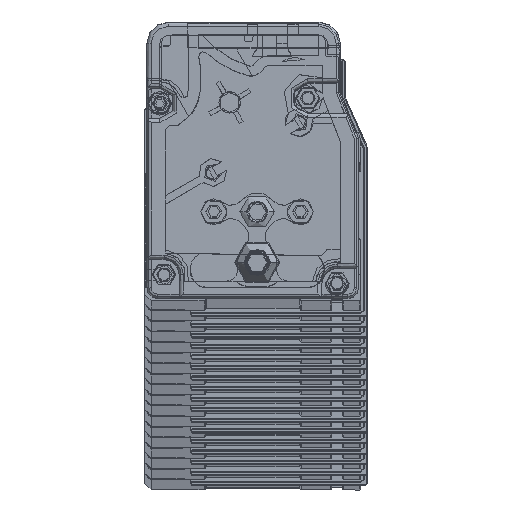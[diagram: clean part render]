
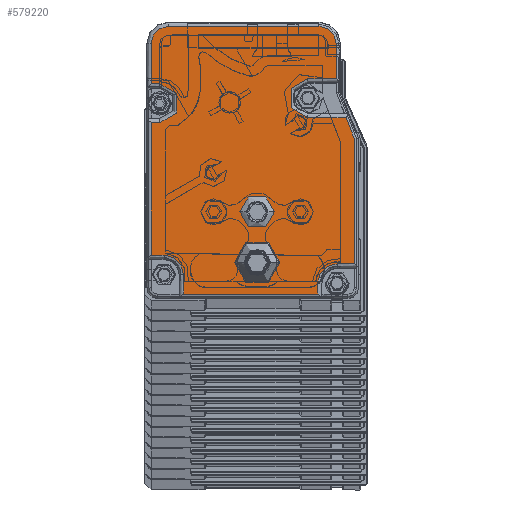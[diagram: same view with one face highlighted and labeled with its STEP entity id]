
A CAD part, top view. The second image highlights one B-rep face of the part: STEP entity #579220.
In plain terms, the highlighted planar face has unit normal (0, 0, 1).
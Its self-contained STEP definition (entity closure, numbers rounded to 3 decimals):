
#505120=CARTESIAN_POINT('',(-20.559,51.727,
2958.89));
#505130=DIRECTION('',(1.,0.,0.));
#505140=VECTOR('',#505130,1.);
#505150=LINE('',#505120,#505140);
#505160=CARTESIAN_POINT('',(-68.559,51.727,
2958.89));
#505170=VERTEX_POINT('',#505160);
#505180=CARTESIAN_POINT('',(-66.559,51.727,
2958.89));
#505190=VERTEX_POINT('',#505180);
#505200=EDGE_CURVE('',#505170,#505190,#505150,.T.);
#505700=CARTESIAN_POINT('',(-20.559,3.124,
2958.89));
#505710=DIRECTION('',(-1.,0.,0.));
#505720=VECTOR('',#505710,1.);
#505730=LINE('',#505700,#505720);
#505740=CARTESIAN_POINT('',(-30.059,3.124,
2958.89));
#505750=VERTEX_POINT('',#505740);
#505760=CARTESIAN_POINT('',(-61.059,3.124,
2958.89));
#505770=VERTEX_POINT('',#505760);
#505780=EDGE_CURVE('',#505750,#505770,#505730,.T.);
#507690=CARTESIAN_POINT('',(-65.559,7.624,
2958.89));
#507700=DIRECTION('',(0.,0.,-1.));
#507710=DIRECTION('',(-1.,0.,0.));
#507720=AXIS2_PLACEMENT_3D('',#507690,#507700,#507710);
#507730=CIRCLE('',#507720,4.5);
#507740=CARTESIAN_POINT('',(-65.559,12.124,
2958.89));
#507750=VERTEX_POINT('',#507740);
#507760=CARTESIAN_POINT('',(-61.059,7.624,
2958.89));
#507770=VERTEX_POINT('',#507760);
#507780=EDGE_CURVE('',#507750,#507770,#507730,.T.);
#541740=CARTESIAN_POINT('',(-32.309,48.424,
2958.89));
#541750=DIRECTION('',(0.,0.,-1.));
#541760=DIRECTION('',(-1.,0.,0.));
#541770=AXIS2_PLACEMENT_3D('',#541740,#541750,#541760);
#541780=CIRCLE('',#541770,4.5);
#541790=CARTESIAN_POINT('',(-32.309,43.924,
2958.89));
#541800=VERTEX_POINT('',#541790);
#541810=CARTESIAN_POINT('',(-32.309,52.924,
2958.89));
#541820=VERTEX_POINT('',#541810);
#541830=EDGE_CURVE('',#541800,#541820,#541780,.T.);
#577220=CARTESIAN_POINT('',(-7.243,2.124,
2958.89));
#577230=DIRECTION('',(0.362,-0.932,0.));
#577240=VECTOR('',#577230,1.);
#577250=LINE('',#577220,#577240);
#577260=CARTESIAN_POINT('',(-23.499,43.924,
2958.89));
#577270=VERTEX_POINT('',#577260);
#577280=CARTESIAN_POINT('',(-21.559,38.937,
2958.89));
#577290=VERTEX_POINT('',#577280);
#577300=EDGE_CURVE('',#577270,#577290,#577250,.T.);
#577580=CARTESIAN_POINT('',(-20.265,1.758,
2958.89));
#577590=DIRECTION('',(0.,0.,-1.));
#577600=DIRECTION('',(-1.,0.,0.));
#577610=AXIS2_PLACEMENT_3D('',#577580,#577590,#577600);
#577620=PLANE('',#577610);
#577630=CARTESIAN_POINT('',(-44.056,10.421,
2958.89));
#577640=DIRECTION('',(0.,0.,-1.));
#577650=DIRECTION('',(-1.,0.,0.));
#577660=AXIS2_PLACEMENT_3D('',#577630,#577640,#577650);
#577670=CIRCLE('',#577660,5.);
#577680=CARTESIAN_POINT('',(-39.056,10.421,
2958.89));
#577690=VERTEX_POINT('',#577680);
#577700=CARTESIAN_POINT('',(-49.056,10.421,
2958.89));
#577710=VERTEX_POINT('',#577700);
#577720=EDGE_CURVE('',#577690,#577710,#577670,.T.);
#577730=ORIENTED_EDGE('',*,*,#577720,.T.);
#577740=EDGE_CURVE('',#577710,#577690,#577670,.T.);
#577750=ORIENTED_EDGE('',*,*,#577740,.T.);
#577760=EDGE_LOOP('',(#577750,#577730));
#577770=FACE_BOUND('',#577760,.T.);
#577780=CARTESIAN_POINT('',(-44.059,22.124,
2958.89));
#577790=DIRECTION('',(0.,0.,1.));
#577800=DIRECTION('',(-1.,0.,0.));
#577810=AXIS2_PLACEMENT_3D('',#577780,#577790,#577800);
#577820=CIRCLE('',#577810,4.);
#577830=CARTESIAN_POINT('',(-40.059,22.124,
2958.89));
#577840=VERTEX_POINT('',#577830);
#577850=CARTESIAN_POINT('',(-48.059,22.124,
2958.89));
#577860=VERTEX_POINT('',#577850);
#577870=EDGE_CURVE('',#577840,#577860,#577820,.T.);
#577880=ORIENTED_EDGE('',*,*,#577870,.F.);
#577890=EDGE_CURVE('',#577860,#577840,#577820,.T.);
#577900=ORIENTED_EDGE('',*,*,#577890,.F.);
#577910=EDGE_LOOP('',(#577900,#577880));
#577920=FACE_BOUND('',#577910,.T.);
#577930=CARTESIAN_POINT('',(-61.059,2.124,
2958.89));
#577940=DIRECTION('',(0.,-1.,0.));
#577950=VECTOR('',#577940,1.);
#577960=LINE('',#577930,#577950);
#577970=EDGE_CURVE('',#507770,#505770,#577960,.T.);
#577980=ORIENTED_EDGE('',*,*,#577970,.T.);
#577990=ORIENTED_EDGE('',*,*,#507780,.T.);
#578000=CARTESIAN_POINT('',(-20.559,12.124,
2958.89));
#578010=DIRECTION('',(1.,0.,0.));
#578020=VECTOR('',#578010,1.);
#578030=LINE('',#578000,#578020);
#578040=CARTESIAN_POINT('',(-68.559,12.124,
2958.89));
#578050=VERTEX_POINT('',#578040);
#578060=EDGE_CURVE('',#578050,#507750,#578030,.T.);
#578070=ORIENTED_EDGE('',*,*,#578060,.T.);
#578080=CARTESIAN_POINT('',(-68.559,2.124,
2958.89));
#578090=DIRECTION('',(0.,-1.,0.));
#578100=VECTOR('',#578090,1.);
#578110=LINE('',#578080,#578100);
#578120=CARTESIAN_POINT('',(-68.559,42.727,
2958.89));
#578130=VERTEX_POINT('',#578120);
#578140=EDGE_CURVE('',#578130,#578050,#578110,.T.);
#578150=ORIENTED_EDGE('',*,*,#578140,.T.);
#578160=CARTESIAN_POINT('',(-20.559,42.727,
2958.89));
#578170=DIRECTION('',(-1.,0.,0.));
#578180=VECTOR('',#578170,1.);
#578190=LINE('',#578160,#578180);
#578200=CARTESIAN_POINT('',(-66.559,42.727,
2958.89));
#578210=VERTEX_POINT('',#578200);
#578220=EDGE_CURVE('',#578210,#578130,#578190,.T.);
#578230=ORIENTED_EDGE('',*,*,#578220,.T.);
#578240=CARTESIAN_POINT('',(-66.559,47.227,
2958.89));
#578250=DIRECTION('',(0.,0.,-1.));
#578260=DIRECTION('',(-1.,0.,0.));
#578270=AXIS2_PLACEMENT_3D('',#578240,#578250,#578260);
#578280=CIRCLE('',#578270,4.5);
#578290=EDGE_CURVE('',#505190,#578210,#578280,.T.);
#578300=ORIENTED_EDGE('',*,*,#578290,.T.);
#578310=ORIENTED_EDGE('',*,*,#505200,.T.);
#578320=CARTESIAN_POINT('',(-68.559,2.124,
2958.89));
#578330=DIRECTION('',(0.,-1.,0.));
#578340=VECTOR('',#578330,1.);
#578350=LINE('',#578320,#578340);
#578360=CARTESIAN_POINT('',(-68.559,61.024,
2958.89));
#578370=VERTEX_POINT('',#578360);
#578380=EDGE_CURVE('',#578370,#505170,#578350,.T.);
#578390=ORIENTED_EDGE('',*,*,#578380,.T.);
#578400=CARTESIAN_POINT('',(-64.559,61.024,
2958.89));
#578410=DIRECTION('',(0.,0.,1.));
#578420=DIRECTION('',(1.,0.,0.));
#578430=AXIS2_PLACEMENT_3D('',#578400,#578410,#578420);
#578440=CIRCLE('',#578430,4.);
#578450=CARTESIAN_POINT('',(-64.559,65.024,
2958.89));
#578460=VERTEX_POINT('',#578450);
#578470=EDGE_CURVE('',#578460,#578370,#578440,.T.);
#578480=ORIENTED_EDGE('',*,*,#578470,.T.);
#578490=CARTESIAN_POINT('',(-20.559,65.024,
2958.89));
#578500=DIRECTION('',(-1.,0.,0.));
#578510=VECTOR('',#578500,1.);
#578520=LINE('',#578490,#578510);
#578530=CARTESIAN_POINT('',(-29.759,65.024,
2958.89));
#578540=VERTEX_POINT('',#578530);
#578550=EDGE_CURVE('',#578540,#578460,#578520,.T.);
#578560=ORIENTED_EDGE('',*,*,#578550,.T.);
#578570=CARTESIAN_POINT('',(-29.759,61.024,
2958.89));
#578580=DIRECTION('',(0.,0.,1.));
#578590=DIRECTION('',(1.,0.,0.));
#578600=AXIS2_PLACEMENT_3D('',#578570,#578580,#578590);
#578610=CIRCLE('',#578600,4.);
#578620=CARTESIAN_POINT('',(-25.759,61.024,
2958.89));
#578630=VERTEX_POINT('',#578620);
#578640=EDGE_CURVE('',#578630,#578540,#578610,.T.);
#578650=ORIENTED_EDGE('',*,*,#578640,.T.);
#578660=CARTESIAN_POINT('',(-25.759,2.124,
2958.89));
#578670=DIRECTION('',(0.,1.,0.));
#578680=VECTOR('',#578670,1.);
#578690=LINE('',#578660,#578680);
#578700=CARTESIAN_POINT('',(-25.759,52.924,
2958.89));
#578710=VERTEX_POINT('',#578700);
#578720=EDGE_CURVE('',#578710,#578630,#578690,.T.);
#578730=ORIENTED_EDGE('',*,*,#578720,.T.);
#578740=CARTESIAN_POINT('',(-20.559,52.924,
2958.89));
#578750=DIRECTION('',(-1.,0.,0.));
#578760=VECTOR('',#578750,1.);
#578770=LINE('',#578740,#578760);
#578780=EDGE_CURVE('',#578710,#541820,#578770,.T.);
#578790=ORIENTED_EDGE('',*,*,#578780,.F.);
#578800=ORIENTED_EDGE('',*,*,#541830,.T.);
#578810=CARTESIAN_POINT('',(-20.559,43.924,
2958.89));
#578820=DIRECTION('',(-1.,0.,0.));
#578830=VECTOR('',#578820,1.);
#578840=LINE('',#578810,#578830);
#578850=EDGE_CURVE('',#577270,#541800,#578840,.T.);
#578860=ORIENTED_EDGE('',*,*,#578850,.T.);
#578870=ORIENTED_EDGE('',*,*,#577300,.F.);
#578880=CARTESIAN_POINT('',(-21.559,2.124,
2958.89));
#578890=DIRECTION('',(0.,-1.,0.));
#578900=VECTOR('',#578890,1.);
#578910=LINE('',#578880,#578900);
#578920=CARTESIAN_POINT('',(-21.559,10.124,
2958.89));
#578930=VERTEX_POINT('',#578920);
#578940=EDGE_CURVE('',#577290,#578930,#578910,.T.);
#578950=ORIENTED_EDGE('',*,*,#578940,.F.);
#578960=CARTESIAN_POINT('',(-20.559,10.124,
2958.89));
#578970=DIRECTION('',(1.,0.,0.));
#578980=VECTOR('',#578970,1.);
#578990=LINE('',#578960,#578980);
#579000=CARTESIAN_POINT('',(-25.559,10.124,
2958.89));
#579010=VERTEX_POINT('',#579000);
#579020=EDGE_CURVE('',#579010,#578930,#578990,.T.);
#579030=ORIENTED_EDGE('',*,*,#579020,.T.);
#579040=CARTESIAN_POINT('',(-25.559,5.624,
2958.89));
#579050=DIRECTION('',(0.,0.,-1.));
#579060=DIRECTION('',(-1.,0.,0.));
#579070=AXIS2_PLACEMENT_3D('',#579040,#579050,#579060);
#579080=CIRCLE('',#579070,4.5);
#579090=CARTESIAN_POINT('',(-30.059,5.624,
2958.89));
#579100=VERTEX_POINT('',#579090);
#579110=EDGE_CURVE('',#579100,#579010,#579080,.T.);
#579120=ORIENTED_EDGE('',*,*,#579110,.T.);
#579130=CARTESIAN_POINT('',(-30.059,2.124,
2958.89));
#579140=DIRECTION('',(0.,1.,0.));
#579150=VECTOR('',#579140,1.);
#579160=LINE('',#579130,#579150);
#579170=EDGE_CURVE('',#505750,#579100,#579160,.T.);
#579180=ORIENTED_EDGE('',*,*,#579170,.T.);
#579190=ORIENTED_EDGE('',*,*,#505780,.F.);
#579200=EDGE_LOOP('',(#579190,#579180,#579120,#579030,#578950,#578870,
#578860,#578800,#578790,#578730,#578650,#578560,#578480,#578390,#578310,
#578300,#578230,#578150,#578070,#577990,#577980));
#579210=FACE_OUTER_BOUND('',#579200,.T.);
#579220=ADVANCED_FACE('',(#577770,#577920,#579210),#577620,.F.);
